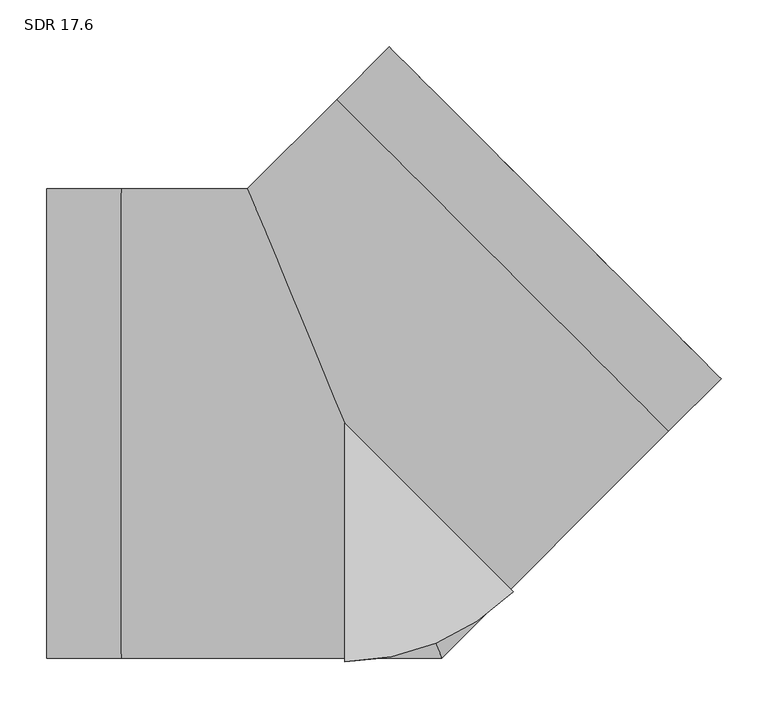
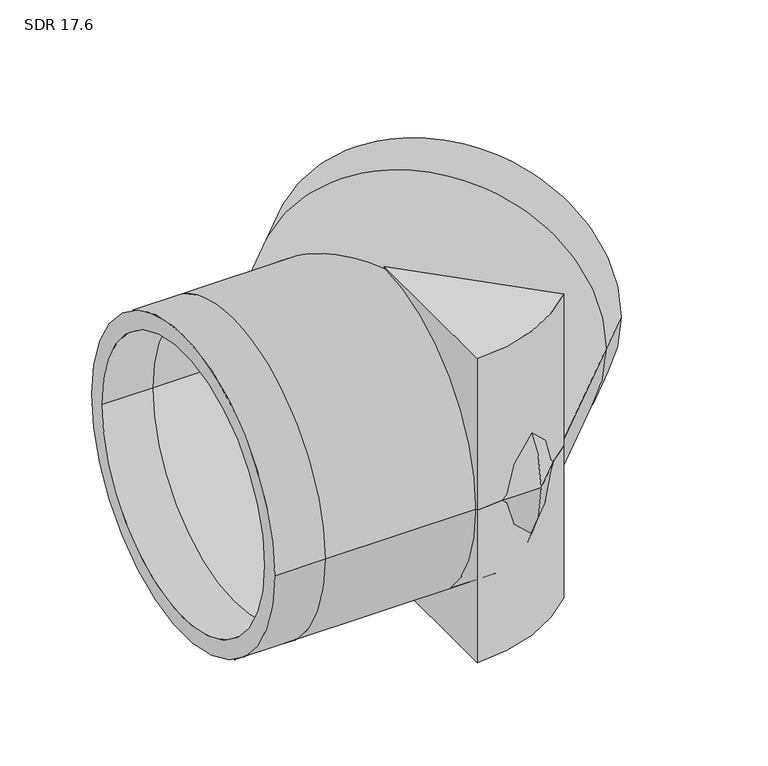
"""IFC4 building model written with IfcOpenShell, lengths in millimetres: pipe fitting geometry, Aquatherm - Elbow Blue BW Segmented : SDR 17.6."""

from ifc_helpers import new_model, si_unit, point, frame, origin, origin_with_axes, origin_2d, place, context, project, spatial, polyline, circle_curve, ellipse_curve, trimmed, segment, composite_curve, outline, extrude, source, transform, mapped, element, save
from ifc_brep_helpers import plane_surface, cylinder_surface, revolved_surface, advanced_brep


def sdr_17_6_812d4f89(model_context):
    return source(origin(), model_context, "Body", "SolidModel", [
        extrude(outline(composite_curve([segment(polyline([(0.0, -254.0), (0.0, 0.0), (179.6051224, -179.6051224)]), True, "CONTINUOUS"), segment(trimmed(circle_curve(origin_2d(), 254.0), [point((179.6051224, -179.6051224))], [point((0.0, -254.0))], False, "CARTESIAN"), True, "CONTINUOUS")], self_intersect=False)), frame((0.0, 0.0, -254.0), z_axis=(0.0, 0.0, 1.0), x_axis=(1.0, 0.0, 0.0)), (0.0, 0.0, 1.0), 254.0),
        extrude(outline(composite_curve([segment(trimmed(circle_curve(origin_2d(), 254.0), [point((179.6051224, -179.6051224))], [point((0.0, -254.0))], False, "CARTESIAN"), True, "CONTINUOUS"), segment(polyline([(0.0, -254.0), (0.0, 0.0), (179.6051224, -179.6051224)]), True, "CONTINUOUS")], self_intersect=False)), origin_with_axes(), (0.0, 0.0, 1.0), 254.0),
        advanced_brep(
        [(-317.5, -250.19, 0.0), (-317.5, 250.19, 0.0), (-317.5, -221.761842, 0.0), (-317.5, 221.761842, 0.0), (401.4174486, 47.5953574, 0.0), (47.5953574, 401.4174486, 0.0), (381.3157053, 67.6971007, 0.0), (67.6971007, 381.3157053, 0.0), (-238.125, -250.19, 0.0), (-238.125, 250.19, 0.0), (-238.125, -221.761842, 0.0), (-238.125, 221.761842, 0.0), (103.6320912, -250.19, 0.0), (-103.6320912, 250.19, 0.0), (91.8567626, -221.761842, 0.0), (-91.8567626, 221.761842, 0.0), (345.2908479, -8.5312433, 0.0), (-8.5312433, 345.2908479, 0.0), (325.1891045, 11.5705, 0.0), (11.5705, 325.1891045, 0.0)],
        [
            (0, 1, circle_curve(frame((-317.5, 0.0, 0.0), z_axis=(-1.0, 0.0, 0.0), x_axis=(0.0, 1.0, 0.0)), 250.19)),
            (1, 0, circle_curve(frame((-317.5, 0.0, 0.0), z_axis=(-1.0, 0.0, 0.0), x_axis=(0.0, 1.0, 0.0)), 250.19)),
            (2, 3, circle_curve(frame((-317.5, 0.0, 0.0), z_axis=(1.0, 0.0, 0.0), x_axis=(0.0, 1.0, 0.0)), 221.761842)),
            (3, 2, circle_curve(frame((-317.5, 0.0, 0.0), z_axis=(1.0, 0.0, 0.0), x_axis=(0.0, 1.0, 0.0)), 221.761842)),
            (4, 5, circle_curve(frame((224.506403, 224.506403, 0.0), z_axis=(0.7071067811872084, 0.7071067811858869, 0.0), x_axis=(-0.7071067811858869, 0.7071067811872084, 0.0)), 250.19)),
            (5, 4, circle_curve(frame((224.506403, 224.506403, 0.0), z_axis=(0.7071067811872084, 0.7071067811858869, 0.0), x_axis=(-0.7071067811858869, 0.7071067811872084, 0.0)), 250.19)),
            (6, 7, circle_curve(frame((224.506403, 224.506403, 0.0), z_axis=(-0.7071067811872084, -0.7071067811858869, 0.0), x_axis=(-0.7071067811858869, 0.7071067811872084, 0.0)), 221.761842)),
            (7, 6, circle_curve(frame((224.506403, 224.506403, 0.0), z_axis=(-0.7071067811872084, -0.7071067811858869, 0.0), x_axis=(-0.7071067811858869, 0.7071067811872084, 0.0)), 221.761842)),
            (0, 8),
            (8, 9, circle_curve(frame((-238.125, 0.0, 0.0), z_axis=(-1.0, 0.0, 0.0), x_axis=(0.0, 1.0, 0.0)), 250.19)),
            (9, 1),
            (9, 8, circle_curve(frame((-238.125, 0.0, 0.0), z_axis=(-1.0, 0.0, 0.0), x_axis=(0.0, 1.0, 0.0)), 250.19)),
            (2, 10),
            (10, 11, circle_curve(frame((-238.125, 0.0, 0.0), z_axis=(1.0, 0.0, 0.0), x_axis=(0.0, 1.0, 0.0)), 221.761842)),
            (11, 3),
            (11, 10, circle_curve(frame((-238.125, 0.0, 0.0), z_axis=(1.0, 0.0, 0.0), x_axis=(0.0, 1.0, 0.0)), 221.761842)),
            (8, 12),
            (12, 13, ellipse_curve(frame((0.0, 0.0, 0.0), z_axis=(-0.9238795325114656, -0.38268343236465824, 0.0), x_axis=(-0.3826834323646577, 0.9238795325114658, 0.0)), 270.8037046, 250.19)),
            (13, 9),
            (13, 12, ellipse_curve(frame((0.0, 0.0, 0.0), z_axis=(-0.9238795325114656, -0.38268343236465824, 0.0), x_axis=(-0.3826834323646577, 0.9238795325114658, 0.0)), 270.8037046, 250.19)),
            (10, 14),
            (14, 15, ellipse_curve(frame((0.0, 0.0, 0.0), z_axis=(0.9238795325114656, 0.38268343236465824, 0.0), x_axis=(0.3826834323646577, -0.9238795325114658, 0.0)), 240.0332881, 221.761842)),
            (15, 11),
            (15, 14, ellipse_curve(frame((0.0, 0.0, 0.0), z_axis=(0.9238795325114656, 0.38268343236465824, 0.0), x_axis=(0.3826834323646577, -0.9238795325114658, 0.0)), 240.0332881, 221.761842)),
            (12, 16),
            (16, 17, circle_curve(frame((168.3798023, 168.3798023, 0.0), z_axis=(-0.7071067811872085, -0.7071067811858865, 0.0), x_axis=(-0.7071067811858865, 0.7071067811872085, 0.0)), 250.19)),
            (17, 13),
            (17, 16, circle_curve(frame((168.3798023, 168.3798023, 0.0), z_axis=(-0.7071067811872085, -0.7071067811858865, 0.0), x_axis=(-0.7071067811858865, 0.7071067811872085, 0.0)), 250.19)),
            (14, 18),
            (18, 19, circle_curve(frame((168.3798023, 168.3798023, 0.0), z_axis=(0.7071067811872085, 0.7071067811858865, 0.0), x_axis=(-0.7071067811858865, 0.7071067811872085, 0.0)), 221.761842)),
            (19, 15),
            (19, 18, circle_curve(frame((168.3798023, 168.3798023, 0.0), z_axis=(0.7071067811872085, 0.7071067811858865, 0.0), x_axis=(-0.7071067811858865, 0.7071067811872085, 0.0)), 221.761842)),
            (16, 4),
            (5, 17),
            (18, 6),
            (7, 19),
        ],
        [
            plane_surface(frame((-317.5, 0.0, 0.0), z_axis=(-1.0, 0.0, 0.0), x_axis=(0.0, 0.0, 1.0))),
            plane_surface(frame((224.506403, 224.506403, 0.0), z_axis=(0.7071067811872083, 0.7071067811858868, 0.0), x_axis=(0.0, 0.0, 1.0))),
            cylinder_surface(frame((-317.5, 0.0, 0.0), z_axis=(-1.0, 0.0, 0.0), x_axis=(0.0, 1.0, 0.0)), 250.19),
            revolved_surface(polyline([(-238.125, 221.761842, 0.0), (-317.5, 221.761842, 0.0)]), (-317.5, 0.0, 0.0), (1.0, 0.0, 0.0)),
            cylinder_surface(frame((-238.125, 0.0, 0.0), z_axis=(-1.0, 0.0, 0.0), x_axis=(0.0, 1.0, 0.0)), 250.19),
            revolved_surface(polyline([(91.85676260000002, 221.761842, 0.0), (-238.125, 221.761842, 0.0)]), (-238.125, 0.0, 0.0), (1.0, 0.0, 0.0)),
            cylinder_surface(frame((0.0, 0.0, 0.0), z_axis=(-0.7071067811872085, -0.7071067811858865, 0.0), x_axis=(-0.7071067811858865, 0.7071067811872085, 0.0)), 250.19),
            revolved_surface(polyline([(11.570500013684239, 325.1891045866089, 0.0), (-221.76184199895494, 91.85676257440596, 0.0)]), (0.0, 0.0, 0.0), (0.7071067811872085, 0.7071067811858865, 0.0)),
            cylinder_surface(frame((168.3798023, 168.3798023, 0.0), z_axis=(-0.7071067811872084, -0.7071067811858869, 0.0), x_axis=(-0.7071067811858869, 0.7071067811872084, 0.0)), 250.19),
            revolved_surface(polyline([(67.69710071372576, 381.3157052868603, 0.0), (11.57049996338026, 325.1891045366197, 0.0)]), (168.3798023, 168.3798023, 0.0), (0.7071067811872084, 0.7071067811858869, 0.0)),
        ],
        [
            (0, [[1, 2], [3, 4]]),
            (1, [[5, 6], [7, 8]]),
            (2, [[-1, 9, 10, 11]]),
            (2, [[-2, -11, 12, -9]]),
            (3, [[-3, 13, 14, 15]]),
            (3, [[-4, -15, 16, -13]]),
            (4, [[-10, 17, 18, 19]]),
            (4, [[-12, -19, 20, -17]]),
            (5, [[-14, 21, 22, 23]]),
            (5, [[-16, -23, 24, -21]]),
            (6, [[-18, 25, 26, 27]]),
            (6, [[-20, -27, 28, -25]]),
            (7, [[-22, 29, 30, 31]]),
            (7, [[-24, -31, 32, -29]]),
            (8, [[-26, 33, -6, 34]]),
            (8, [[-28, -34, -5, -33]]),
            (9, [[-30, 35, -8, 36]]),
            (9, [[-32, -36, -7, -35]]),
        ],
    ),
    ])


if __name__ == "__main__":
    model = new_model("IFC4")
    model_context = context("Model", 3, world=origin())
    ifc_project = project(units=[si_unit("LENGTHUNIT", "METRE", prefix="MILLI")], contexts=[model_context])
    site = spatial("IfcSite", under=ifc_project)
    building = spatial("IfcBuilding", under=site)
    placement = place(None, origin())
    sdr_17_6_shape = sdr_17_6_812d4f89(model_context)
    element("IfcPipeFitting", 1, ObjectType="Aquatherm - Elbow Blue BW Segmented : SDR 17.6", at=placement, inside=building, context=model_context, shape_type="MappedRepresentation", body=[
        mapped(sdr_17_6_shape, transform((0.0, 0.0, 0.0), x_axis=(1.0, 0.0, 0.0), y_axis=(0.0, 1.0, 0.0), z_axis=(0.0, 0.0, 1.0))),
    ])
    save(model, "model.ifc")
